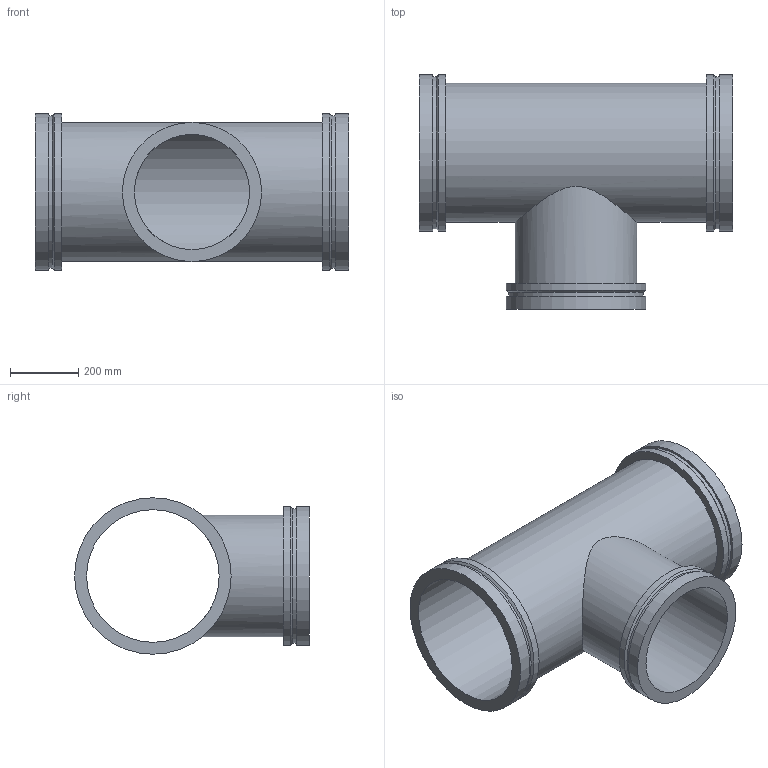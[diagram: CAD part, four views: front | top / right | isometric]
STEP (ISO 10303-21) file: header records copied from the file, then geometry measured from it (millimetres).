
FILE_DESCRIPTION(/* description */ ('VIC REDUCING TEE No W025 VR','CAx-IF Rec.Pracs.---Representation and Presentation of Product Manufacturing Information (PMI)---4.0---2014-10-13'),/* implementation_level */ '2;1');
FILE_NAME(/* name */ 'C:\Users\kkamble\AppData\Roaming\Autodesk\ApplicationPlugins\Back Up\Victaulic_Vic-Ring_Tee Reducing_No W25 VR (AGR)\Victaulic_Vic-Ring_Tee Reducing_No W25 VR (AGR)_16.0x14.0 (400x350).stp',/* time_stamp */ '2020-09-10T11:52:37+05:00',/* author */ ('mchristi'),/* organization */ ('Victaulic'),/* preprocessor_version */ 'ST-DEVELOPER v17.2',/* originating_system */ 'Autodesk Inventor 2019',/* authorisation */ '');
FILE_SCHEMA (('AP242_MANAGED_MODEL_BASED_3D_ENGINEERING_MIM_LF { 1 0 10303 442 1 1 4 }'));
Length unit declared in the file: inch
Products named in the file (1): W25 VR-16.0x14.0
Bounding box: 914.4 x 685.8 x 457.2 mm (x, y, z)
Volume: 20194025.7 mm3; surface area: 3033589.5 mm2
Topology: 1 solids, 1 shells, 25 faces, 68 edges, 52 vertices
Faces by surface type: cylinder 13, plane 9, cone 3
Full cylindrical faces by diameter (mm): 336.55 x1, 355.6 x1, 387.35 x1, 393.7 x1, 406.4 x3, 444.5 x2, 457.2 x4
Entity records: 1211 total; most frequent: CARTESIAN_POINT 367, DIRECTION 190, ORIENTED_EDGE 136, AXIS2_PLACEMENT_3D 87, EDGE_CURVE 68, VERTEX_POINT 52, CIRCLE 48, EDGE_LOOP 36
